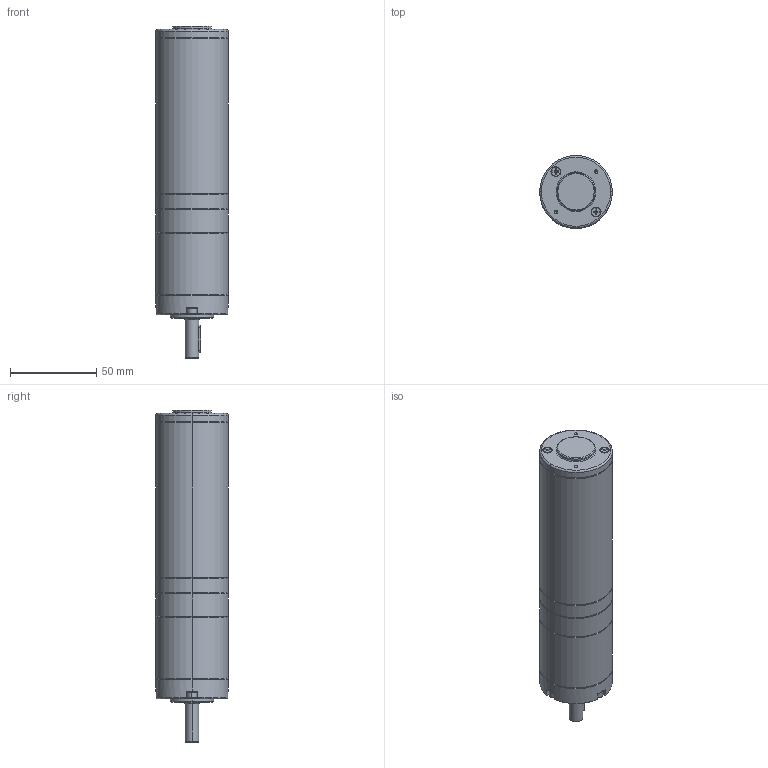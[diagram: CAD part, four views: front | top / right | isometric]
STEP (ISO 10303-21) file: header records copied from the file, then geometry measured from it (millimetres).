
FILE_DESCRIPTION (( 'STEP AP203' ), '1' );
FILE_NAME ('42ZPN有刷三级减速.STEP', '2021-07-17T08:15:58', ( '' ), ( '' ), 'SwSTEP 2.0', 'SolidWorks 2021', '' );
FILE_SCHEMA (( 'CONFIG_CONTROL_DESIGN' ));
Length unit declared in the file: millimetre
Products named in the file (1): 42ZPN有刷三级减速
Bounding box: 42 x 42 x 192.1 mm (x, y, z)
Volume: 230738.3 mm3; surface area: 26775.6 mm2
Topology: 1 solids, 1 shells, 230 faces, 546 edges, 336 vertices
Faces by surface type: plane 97, cylinder 73, cone 54, torus 6
Entity records: 6660 total; most frequent: CARTESIAN_POINT 1199, DIRECTION 1181, ORIENTED_EDGE 1064, EDGE_CURVE 532, AXIS2_PLACEMENT_3D 430, VERTEX_POINT 336, LINE 321, VECTOR 321
